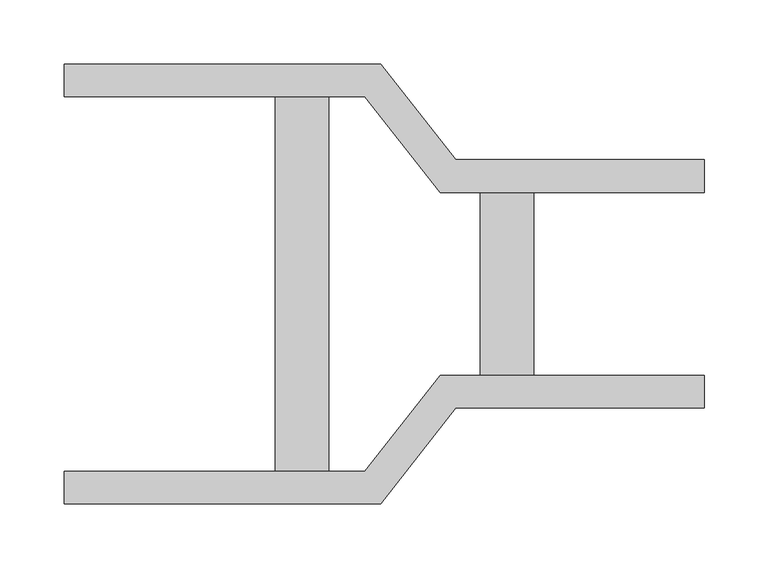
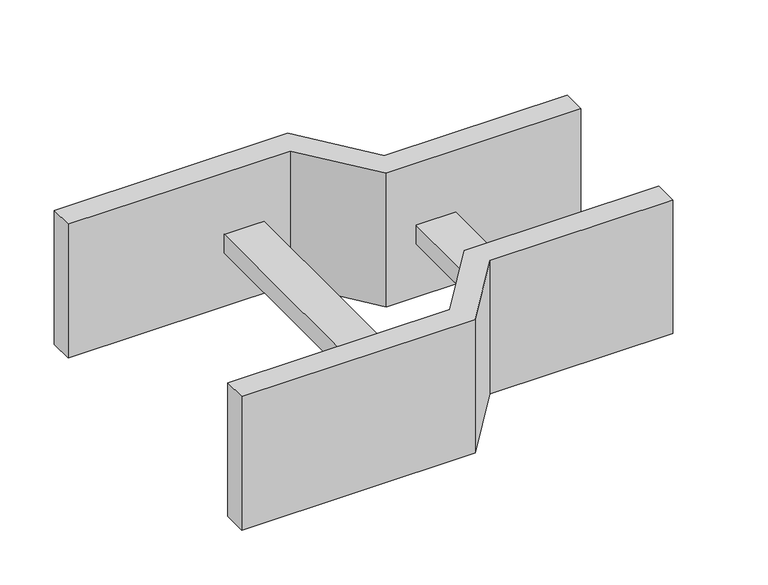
"""IFC4 building model written with IfcOpenShell, lengths in millimetres: cable carrier fitting geometry, Legrand_CableLadder_Swifts_Emerald_Reducer-13 : Straight - Hot Dip Galvanised (after manufacture)."""

from ifc_helpers import new_model, si_unit, frame, origin, place, context, project, spatial, polyline, outline, extrude, source, transform, mapped, element, save


def cable_carrier_fitting_0d86ed4e(model_context):
    return source(origin(), model_context, "Body", "SweptSolid", [
        extrude(outline(polyline([(-250.0, 146.5), (-250.0, 172.0), (-2.6239404, 172.0), (56.2035243, 97.0), (250.0, 97.0), (250.0, 71.5), (43.7964757, 71.5), (-15.030989, 146.5), (-250.0, 146.5)])), frame((0.0, 0.0, -75.0), z_axis=(0.0, 0.0, 1.0), x_axis=(1.0, 0.0, 0.0)), (0.0, 0.0, 1.0), 150.0),
        extrude(outline(polyline([(-250.0, -172.0), (-250.0, -146.5), (-15.030989, -146.5), (43.7964757, -71.5), (250.0, -71.5), (250.0, -97.0), (56.2035243, -97.0), (-2.6239404, -172.0), (-250.0, -172.0)])), frame((0.0, 0.0, -75.0), z_axis=(0.0, 0.0, 1.0), x_axis=(1.0, 0.0, 0.0)), (0.0, 0.0, 1.0), 150.0),
        extrude(outline(polyline([(117.0, 71.5), (117.0, -71.5), (75.0, -71.5), (75.0, 71.5), (117.0, 71.5)])), frame((0.0, 0.0, -15.0), z_axis=(0.0, 0.0, 1.0), x_axis=(1.0, 0.0, 0.0)), (0.0, 0.0, 1.0), 21.0),
        extrude(outline(polyline([(-85.0, -146.5), (-85.0, 146.5), (-43.0, 146.5), (-43.0, -146.5), (-85.0, -146.5)])), frame((0.0, 0.0, -15.0), z_axis=(0.0, 0.0, 1.0), x_axis=(1.0, 0.0, 0.0)), (0.0, 0.0, 1.0), 21.0),
    ])


if __name__ == "__main__":
    model = new_model("IFC4")
    model_context = context("Model", 3, world=origin())
    ifc_project = project(units=[si_unit("LENGTHUNIT", "METRE", prefix="MILLI")], contexts=[model_context])
    site = spatial("IfcSite", under=ifc_project)
    building = spatial("IfcBuilding", under=site)
    placement = place(None, origin())
    cable_carrier_fitting_shape = cable_carrier_fitting_0d86ed4e(model_context)
    element("IfcCableCarrierFitting", 1, ObjectType="Legrand_CableLadder_Swifts_Emerald_Reducer-13 : Straight - Hot Dip Galvanised (after manufacture)", at=placement, inside=building, context=model_context, shape_type="MappedRepresentation", body=[
        mapped(cable_carrier_fitting_shape, transform((0.0, 0.0, 0.0), x_axis=(1.0, 0.0, 0.0), y_axis=(0.0, 1.0, 0.0), z_axis=(0.0, 0.0, 1.0))),
    ])
    save(model, "model.ifc")
